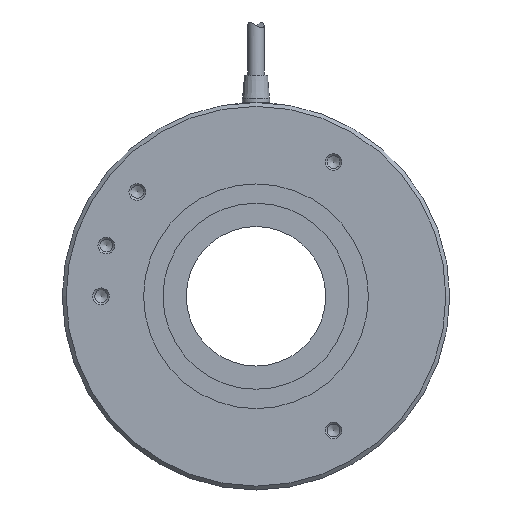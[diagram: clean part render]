
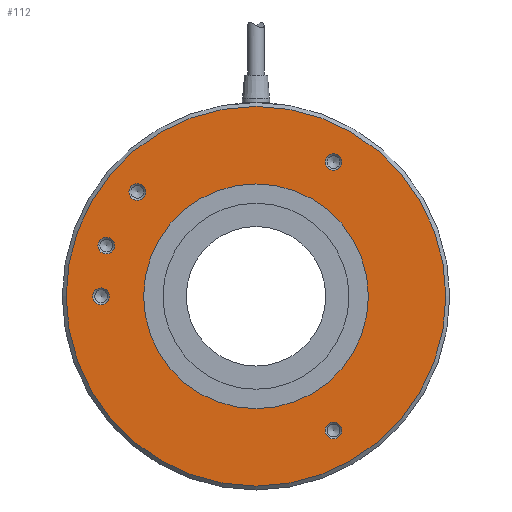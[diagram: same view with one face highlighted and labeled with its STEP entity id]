
A CAD part, left-side view. The second image highlights one B-rep face of the part: STEP entity #112.
In plain terms, the highlighted planar face has unit normal (-1, 0, 0).
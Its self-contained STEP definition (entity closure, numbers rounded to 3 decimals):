
#112=ADVANCED_FACE('',(#248,#249,#250,#251,#252,#253,#254),#255,.F.);
#248=FACE_OUTER_BOUND('',#475,.T.);
#249=FACE_BOUND('',#476,.T.);
#250=FACE_BOUND('',#477,.T.);
#251=FACE_BOUND('',#478,.T.);
#252=FACE_BOUND('',#479,.T.);
#253=FACE_BOUND('',#480,.T.);
#254=FACE_BOUND('',#481,.T.);
#255=PLANE('',#482);
#475=EDGE_LOOP('',(#698));
#476=EDGE_LOOP('',(#699));
#477=EDGE_LOOP('',(#700));
#478=EDGE_LOOP('',(#701));
#479=EDGE_LOOP('',(#702));
#480=EDGE_LOOP('',(#703));
#481=EDGE_LOOP('',(#704));
#482=AXIS2_PLACEMENT_3D('',#705,#706,#707);
#698=ORIENTED_EDGE('',*,*,#1049,.T.);
#699=ORIENTED_EDGE('',*,*,#1051,.F.);
#700=ORIENTED_EDGE('',*,*,#1052,.T.);
#701=ORIENTED_EDGE('',*,*,#1053,.T.);
#702=ORIENTED_EDGE('',*,*,#1054,.T.);
#703=ORIENTED_EDGE('',*,*,#1055,.T.);
#704=ORIENTED_EDGE('',*,*,#1056,.T.);
#705=CARTESIAN_POINT('',(0.,-34.208,-19.75));
#706=DIRECTION('',(1.0,0.,0.));
#707=DIRECTION('',(0.,-0.5,0.866));
#1049=EDGE_CURVE('',#1176,#1176,#1177,.F.);
#1051=EDGE_CURVE('',#1179,#1179,#1180,.T.);
#1052=EDGE_CURVE('',#1181,#1181,#1182,.T.);
#1053=EDGE_CURVE('',#1183,#1183,#1184,.T.);
#1054=EDGE_CURVE('',#1185,#1185,#1186,.T.);
#1055=EDGE_CURVE('',#1187,#1187,#1188,.T.);
#1056=EDGE_CURVE('',#1189,#1189,#1190,.T.);
#1176=VERTEX_POINT('',#1355);
#1177=CIRCLE('',#1356,49.0);
#1179=VERTEX_POINT('',#1358);
#1180=CIRCLE('',#1359,29.0);
#1181=VERTEX_POINT('',#1360);
#1182=CIRCLE('',#1361,2.15);
#1183=VERTEX_POINT('',#1362);
#1184=CIRCLE('',#1363,2.15);
#1185=VERTEX_POINT('',#1364);
#1186=CIRCLE('',#1365,2.15);
#1187=VERTEX_POINT('',#1366);
#1188=CIRCLE('',#1367,2.15);
#1189=VERTEX_POINT('',#1368);
#1190=CIRCLE('',#1369,2.15);
#1355=CARTESIAN_POINT('',(0.,-24.5,42.435));
#1356=AXIS2_PLACEMENT_3D('',#1638,#1639,#1640);
#1358=CARTESIAN_POINT('',(0.,14.5,-25.115));
#1359=AXIS2_PLACEMENT_3D('',#1641,#1642,#1643);
#1360=CARTESIAN_POINT('',(0.,40.503,14.147));
#1361=AXIS2_PLACEMENT_3D('',#1644,#1645,#1646);
#1362=CARTESIAN_POINT('',(0.,32.503,28.003));
#1363=AXIS2_PLACEMENT_3D('',#1647,#1648,#1649);
#1364=CARTESIAN_POINT('',(0.,41.862,1.075));
#1365=AXIS2_PLACEMENT_3D('',#1650,#1651,#1652);
#1366=CARTESIAN_POINT('',(0.,-18.138,35.716));
#1367=AXIS2_PLACEMENT_3D('',#1653,#1654,#1655);
#1368=CARTESIAN_POINT('',(0.,-18.138,-33.566));
#1369=AXIS2_PLACEMENT_3D('',#1656,#1657,#1658);
#1638=CARTESIAN_POINT('',(0.,0.,0.));
#1639=DIRECTION('',(1.0,0.,0.));
#1640=DIRECTION('',(0.,-0.5,0.866));
#1641=CARTESIAN_POINT('',(0.0,0.0,0.0));
#1642=DIRECTION('',(-1.0,0.,0.));
#1643=DIRECTION('',(0.,0.5,-0.866));
#1644=CARTESIAN_POINT('',(0.,38.641,13.072));
#1645=DIRECTION('',(1.0,0.,0.));
#1646=DIRECTION('',(0.,0.866,0.5));
#1647=CARTESIAN_POINT('',(0.,30.641,26.928));
#1648=DIRECTION('',(1.0,0.,0.));
#1649=DIRECTION('',(0.,0.866,0.5));
#1650=CARTESIAN_POINT('',(0.,40.0,0.));
#1651=DIRECTION('',(1.0,0.,0.));
#1652=DIRECTION('',(0.,0.866,0.5));
#1653=CARTESIAN_POINT('',(0.,-20.0,34.641));
#1654=DIRECTION('',(1.0,0.,0.));
#1655=DIRECTION('',(0.,0.866,0.5));
#1656=CARTESIAN_POINT('',(0.,-20.0,-34.641));
#1657=DIRECTION('',(1.0,0.,0.));
#1658=DIRECTION('',(0.,0.866,0.5));
